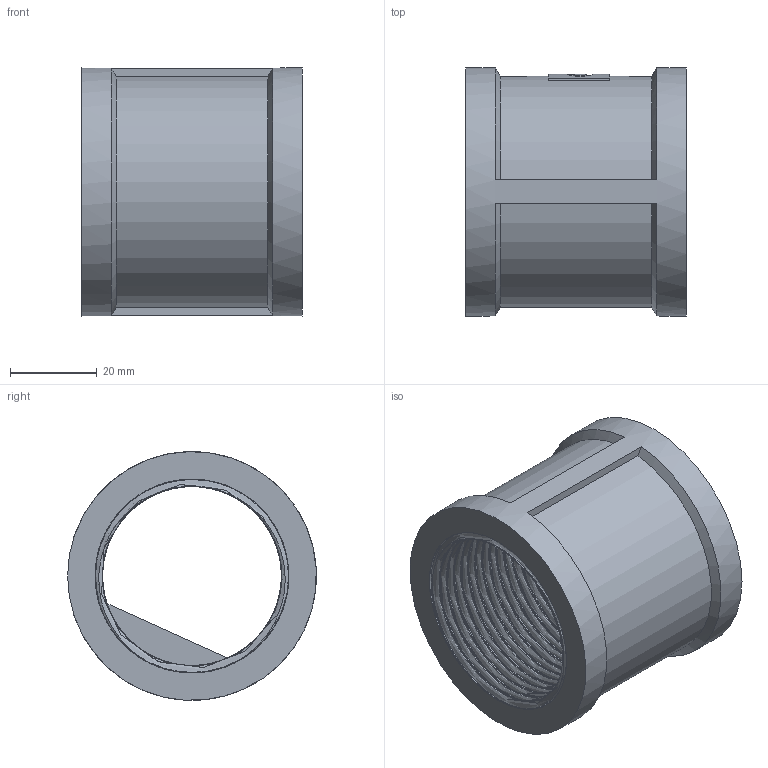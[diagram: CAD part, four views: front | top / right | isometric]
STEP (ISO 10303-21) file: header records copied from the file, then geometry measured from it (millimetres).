
FILE_DESCRIPTION(/* description */ (''),/* implementation_level */ '2;1');
FILE_NAME(/* name */ 'C:\Users\Doom\Desktop\Фадотех\Резьба\M05 17.03.2020\M05 17.03.2020.stp',/* time_stamp */ '2021-12-24T23:54:48+02:00',/* author */ ('Doom'),/* organization */ (''),/* preprocessor_version */ 'ST-DEVELOPER v18',/* originating_system */ 'Autodesk Inventor 2020',/* authorisation */ '');
FILE_SCHEMA (('AUTOMOTIVE_DESIGN { 1 0 10303 214 3 1 1 }'));
Length unit declared in the file: millimetre
Products named in the file (1): M05 17.03.2020
Bounding box: 51 x 57.5 x 57.5 mm (x, y, z)
Volume: 52445.2 mm3; surface area: 39784.2 mm2
Topology: 2 solids, 2 shells, 74 faces, 202 edges, 134 vertices
Faces by surface type: cylinder 34, plane 26, bspline 10, cone 4
Full cylindrical faces by diameter (mm): 41.376 x24, 44.8 x2, 57.5 x1
Entity records: 13667 total; most frequent: CARTESIAN_POINT 11911, ORIENTED_EDGE 396, DIRECTION 295, EDGE_CURVE 198, VERTEX_POINT 132, AXIS2_PLACEMENT_3D 111, EDGE_LOOP 82, FACE_OUTER_BOUND 74
